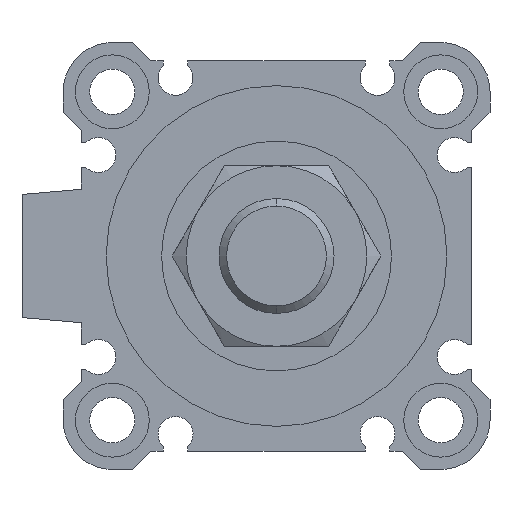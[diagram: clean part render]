
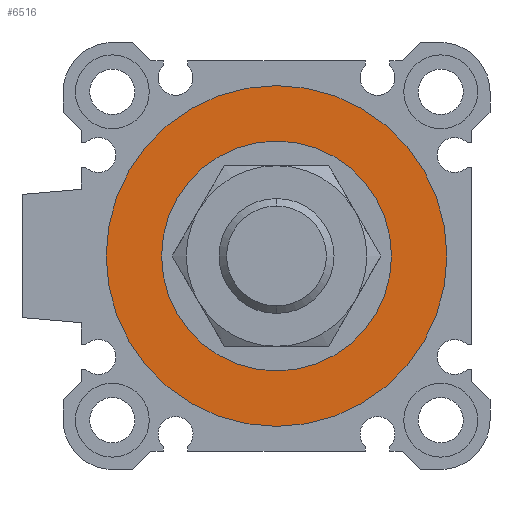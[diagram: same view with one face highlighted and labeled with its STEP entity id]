
A CAD part, left-side view. The second image highlights one B-rep face of the part: STEP entity #6516.
In plain terms, the highlighted planar face has unit normal (-1, 0, 0).
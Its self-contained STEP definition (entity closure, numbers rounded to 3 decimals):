
#51 = PLANE ( 'NONE',  #2202 ) ;
#72 = CARTESIAN_POINT ( 'NONE',  ( 3.3, 0., 20.75 ) ) ;
#335 = ORIENTED_EDGE ( 'NONE', *, *, #3299, .T. ) ;
#702 = EDGE_CURVE ( 'NONE', #5418, #5467, #1597, .T. ) ;
#852 = DIRECTION ( 'NONE',  ( 0., 0., -1. ) ) ;
#936 = DIRECTION ( 'NONE',  ( 0., 0., -1. ) ) ;
#947 = CARTESIAN_POINT ( 'NONE',  ( 3.3, 0., 0. ) ) ;
#1226 = EDGE_CURVE ( 'NONE', #4818, #6444, #4283, .T. ) ;
#1549 = ORIENTED_EDGE ( 'NONE', *, *, #4559, .F. ) ;
#1597 = CIRCLE ( 'NONE', #5446, 20.75 ) ;
#1681 = CIRCLE ( 'NONE', #4842, 14. ) ;
#1689 = DIRECTION ( 'NONE',  ( 0., 0., -1. ) ) ;
#1863 = CARTESIAN_POINT ( 'NONE',  ( 3.3, 0., 14. ) ) ;
#1970 = EDGE_LOOP ( 'NONE', ( #1549, #5318 ) ) ;
#2202 = AXIS2_PLACEMENT_3D ( 'NONE', #5044, #3379, #2253 ) ;
#2253 = DIRECTION ( 'NONE',  ( 0., 1., 0. ) ) ;
#2462 = CIRCLE ( 'NONE', #5743, 20.75 ) ;
#2750 = FACE_BOUND ( 'NONE', #4170, .T. ) ;
#2885 = FACE_OUTER_BOUND ( 'NONE', #1970, .T. ) ;
#3088 = CARTESIAN_POINT ( 'NONE',  ( 3.3, 0., 0. ) ) ;
#3299 = EDGE_CURVE ( 'NONE', #6444, #4818, #1681, .T. ) ;
#3325 = DIRECTION ( 'NONE',  ( 0., 0., -1. ) ) ;
#3379 = DIRECTION ( 'NONE',  ( 1., 0., 0. ) ) ;
#3623 = DIRECTION ( 'NONE',  ( 1., 0., 0. ) ) ;
#3922 = CARTESIAN_POINT ( 'NONE',  ( 3.3, 0., 0. ) ) ;
#3941 = ORIENTED_EDGE ( 'NONE', *, *, #1226, .T. ) ;
#4170 = EDGE_LOOP ( 'NONE', ( #3941, #335 ) ) ;
#4225 = DIRECTION ( 'NONE',  ( 1., 0., 0. ) ) ;
#4231 = CARTESIAN_POINT ( 'NONE',  ( 3.3, 0., 0. ) ) ;
#4283 = CIRCLE ( 'NONE', #5294, 14. ) ;
#4559 = EDGE_CURVE ( 'NONE', #5467, #5418, #2462, .T. ) ;
#4818 = VERTEX_POINT ( 'NONE', #1863 ) ;
#4842 = AXIS2_PLACEMENT_3D ( 'NONE', #4231, #3623, #936 ) ;
#4903 = DIRECTION ( 'NONE',  ( 1., 0., 0. ) ) ;
#5044 = CARTESIAN_POINT ( 'NONE',  ( 3.3, 0., 0. ) ) ;
#5249 = CARTESIAN_POINT ( 'NONE',  ( 3.3, 0., -20.75 ) ) ;
#5294 = AXIS2_PLACEMENT_3D ( 'NONE', #3088, #4225, #852 ) ;
#5318 = ORIENTED_EDGE ( 'NONE', *, *, #702, .F. ) ;
#5418 = VERTEX_POINT ( 'NONE', #5249 ) ;
#5446 = AXIS2_PLACEMENT_3D ( 'NONE', #947, #4903, #1689 ) ;
#5467 = VERTEX_POINT ( 'NONE', #72 ) ;
#5743 = AXIS2_PLACEMENT_3D ( 'NONE', #3922, #6119, #3325 ) ;
#6119 = DIRECTION ( 'NONE',  ( 1., 0., 0. ) ) ;
#6444 = VERTEX_POINT ( 'NONE', #6850 ) ;
#6516 = ADVANCED_FACE ( 'NONE', ( #2885, #2750 ), #51, .F. ) ;
#6850 = CARTESIAN_POINT ( 'NONE',  ( 3.3, 0., -14. ) ) ;
